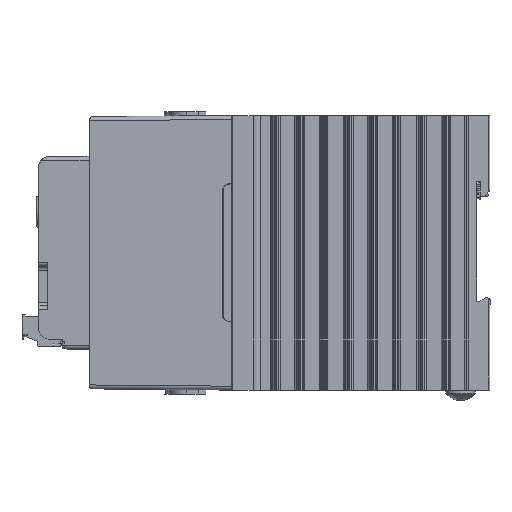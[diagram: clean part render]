
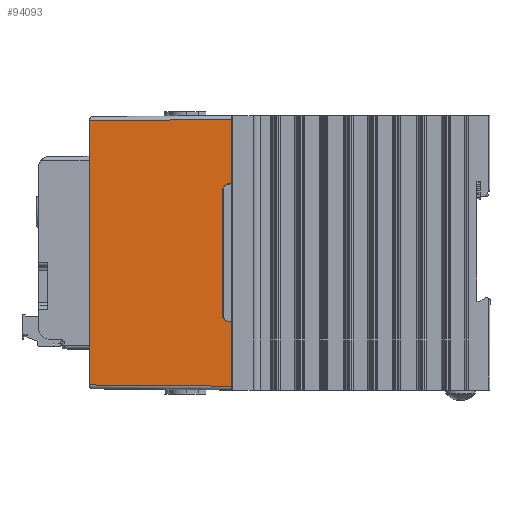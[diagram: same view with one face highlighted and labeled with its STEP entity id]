
A CAD part, left-side view. The second image highlights one B-rep face of the part: STEP entity #94093.
In plain terms, the highlighted planar face has unit normal (-1, 0.009, 0) as drawn and (1, 0, 0.009) by its records, which use the part's own axes.
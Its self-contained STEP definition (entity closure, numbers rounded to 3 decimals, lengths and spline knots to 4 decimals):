
#9847=FACE_OUTER_BOUND('',#15107,.T.);
#15107=EDGE_LOOP('',(#82222,#82223,#82224,#82225,#82226,#82227,#82228,#82229,
#82230,#82231));
#24641=LINE('',#165673,#34822);
#24771=LINE('',#166458,#34952);
#24777=LINE('',#166470,#34958);
#24781=LINE('',#166476,#34962);
#24783=LINE('',#166480,#34964);
#24785=LINE('',#166484,#34966);
#24786=LINE('',#166487,#34967);
#25131=LINE('',#167245,#35312);
#25133=LINE('',#167251,#35314);
#25134=LINE('',#167252,#35315);
#34822=VECTOR('',#123364,0.3937);
#34952=VECTOR('',#123740,0.3937);
#34958=VECTOR('',#123750,0.3937);
#34962=VECTOR('',#123758,0.3937);
#34964=VECTOR('',#123762,0.3937);
#34966=VECTOR('',#123766,0.3937);
#34967=VECTOR('',#123769,0.3937);
#35312=VECTOR('',#124494,0.3937);
#35314=VECTOR('',#124502,0.3937);
#35315=VECTOR('',#124503,0.3937);
#43589=VERTEX_POINT('',#165670);
#43590=VERTEX_POINT('',#165672);
#43693=VERTEX_POINT('',#166455);
#43694=VERTEX_POINT('',#166457);
#43697=VERTEX_POINT('',#166467);
#43698=VERTEX_POINT('',#166469);
#43699=VERTEX_POINT('',#166478);
#43700=VERTEX_POINT('',#166482);
#43701=VERTEX_POINT('',#166486);
#43901=VERTEX_POINT('',#167250);
#56358=EDGE_CURVE('',#43590,#43589,#24641,.T.);
#56546=EDGE_CURVE('',#43694,#43693,#24771,.T.);
#56552=EDGE_CURVE('',#43698,#43697,#24777,.T.);
#56556=EDGE_CURVE('',#43693,#43698,#24781,.T.);
#56558=EDGE_CURVE('',#43697,#43699,#24783,.T.);
#56560=EDGE_CURVE('',#43699,#43700,#24785,.T.);
#56561=EDGE_CURVE('',#43701,#43694,#24786,.T.);
#56927=EDGE_CURVE('',#43701,#43589,#25131,.T.);
#56930=EDGE_CURVE('',#43700,#43901,#25133,.T.);
#56931=EDGE_CURVE('',#43590,#43901,#25134,.T.);
#82222=ORIENTED_EDGE('',*,*,#56560,.T.);
#82223=ORIENTED_EDGE('',*,*,#56930,.T.);
#82224=ORIENTED_EDGE('',*,*,#56931,.F.);
#82225=ORIENTED_EDGE('',*,*,#56358,.T.);
#82226=ORIENTED_EDGE('',*,*,#56927,.F.);
#82227=ORIENTED_EDGE('',*,*,#56561,.T.);
#82228=ORIENTED_EDGE('',*,*,#56546,.T.);
#82229=ORIENTED_EDGE('',*,*,#56556,.T.);
#82230=ORIENTED_EDGE('',*,*,#56552,.T.);
#82231=ORIENTED_EDGE('',*,*,#56558,.T.);
#89592=PLANE('',#101412);
#94093=ADVANCED_FACE('',(#9847),#89592,.T.);
#101412=AXIS2_PLACEMENT_3D('',#167249,#124500,#124501);
#123364=DIRECTION('',(0.,-1.,0.));
#123740=DIRECTION('',(-0.009,0.009,1.));
#123750=DIRECTION('',(0.,1.,0.));
#123758=DIRECTION('',(-0.006,0.71,0.704));
#123762=DIRECTION('',(0.006,0.71,-0.704));
#123766=DIRECTION('',(0.009,0.009,-1.));
#123769=DIRECTION('',(0.,1.,0.));
#124494=DIRECTION('',(-0.009,0.009,1.));
#124500=DIRECTION('center_axis',(1.,0.,
0.009));
#124501=DIRECTION('ref_axis',(0.,1.,0.));
#124502=DIRECTION('',(0.,1.,0.));
#124503=DIRECTION('',(0.009,0.009,-1.));
#165670=CARTESIAN_POINT('',(1.3842,0.0658,1.811));
#165672=CARTESIAN_POINT('',(1.3842,3.4342,1.811));
#165673=CARTESIAN_POINT('',(1.3842,0.,1.811));
#166455=CARTESIAN_POINT('',(1.3995,0.8705,0.0521));
#166457=CARTESIAN_POINT('',(1.4,0.87,0.));
#166458=CARTESIAN_POINT('',(1.3996,0.8704,0.0436));
#166467=CARTESIAN_POINT('',(1.3991,2.5762,0.105));
#166469=CARTESIAN_POINT('',(1.3991,0.9238,0.105));
#166470=CARTESIAN_POINT('',(1.3991,3.0381,0.105));
#166476=CARTESIAN_POINT('',(1.3937,1.5503,0.726));
#166478=CARTESIAN_POINT('',(1.3995,2.6295,0.0521));
#166480=CARTESIAN_POINT('',(1.4015,2.859,-0.1754));
#166482=CARTESIAN_POINT('',(1.4,2.63,0.));
#166484=CARTESIAN_POINT('',(1.4,2.63,0.0023));
#166486=CARTESIAN_POINT('',(1.4,0.05,0.));
#166487=CARTESIAN_POINT('',(1.4,0.,0.));
#167245=CARTESIAN_POINT('',(1.3999,0.0501,0.0148));
#167249=CARTESIAN_POINT('Origin',(1.4,3.5,0.));
#167250=CARTESIAN_POINT('',(1.4,3.45,0.));
#167251=CARTESIAN_POINT('',(1.4,0.,0.));
#167252=CARTESIAN_POINT('',(1.4,3.45,0.0057));
